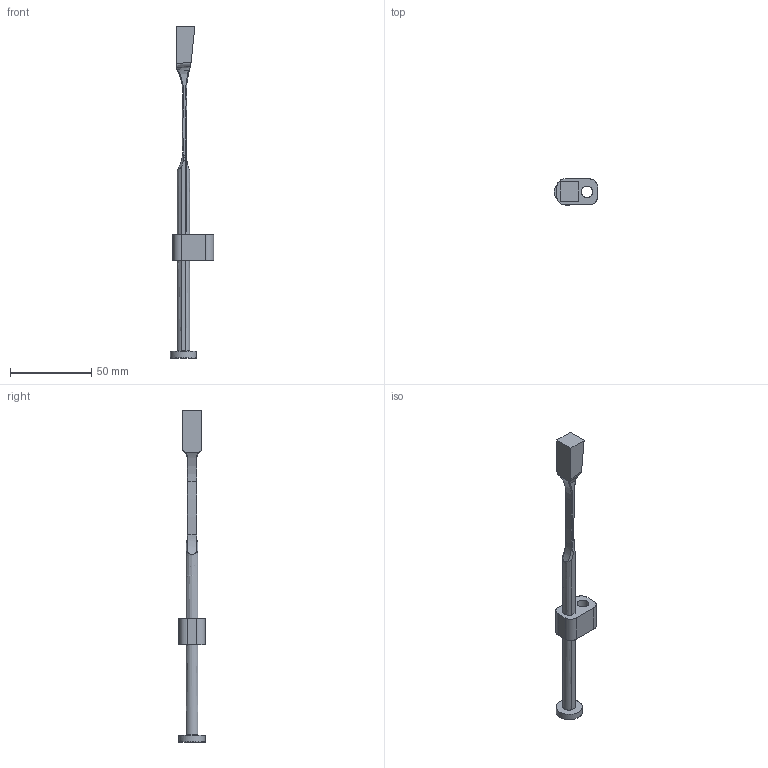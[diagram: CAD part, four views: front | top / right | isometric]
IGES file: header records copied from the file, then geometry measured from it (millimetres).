
Start section: VISI Layer Mapping Iges    VISI  0      LAYER0  1      WARNINGS
Global section: file name: G:\Produktkommunikation\Support\CD-Online-Katalog\3D Daten Produkte\E3200\E3200_12_11,5_200.igs; native system: VISI 20.0; preprocessor: 2.0; author: NUS; organization: Unknown; date: 20130529.090042; units: millimetre
Bounding box: 26.5 x 16 x 204 mm (x, y, z)
Surface area: 9113.8 mm2 (no closed solid volume)
Topology: 0 solids, 0 shells, 85 faces, 709 edges, 688 vertices
Faces by surface type: bspline 85
